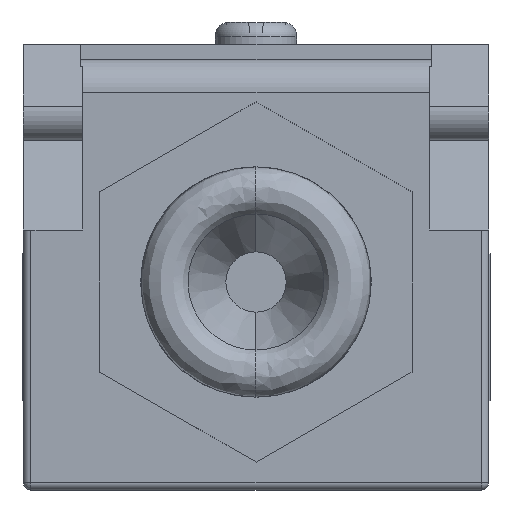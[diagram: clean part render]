
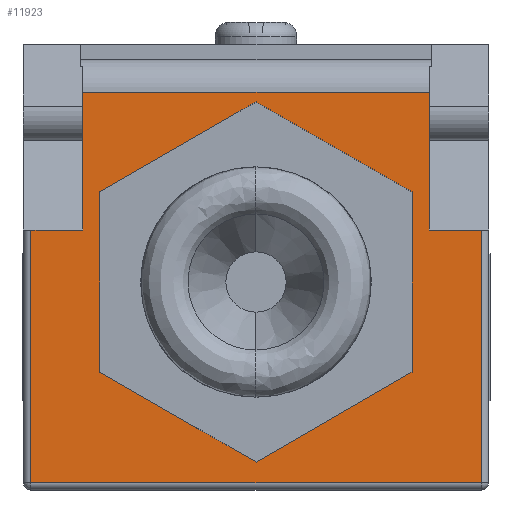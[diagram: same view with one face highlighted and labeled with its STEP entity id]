
A CAD part, front view. The second image highlights one B-rep face of the part: STEP entity #11923.
In plain terms, the highlighted planar face has unit normal (0, -1, 0).
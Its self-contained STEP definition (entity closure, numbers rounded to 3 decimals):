
#6066 = VECTOR ( 'NONE', #7252, 1000. ) ;
#6074 = VECTOR ( 'NONE', #7312, 1000. ) ;
#6097 = VECTOR ( 'NONE', #12486, 1000. ) ;
#6099 = VECTOR ( 'NONE', #12492, 1000. ) ;
#6101 = VECTOR ( 'NONE', #12498, 1000. ) ;
#6109 = VECTOR ( 'NONE', #12519, 1000. ) ;
#6111 = VECTOR ( 'NONE', #12528, 1000. ) ;
#6115 = VECTOR ( 'NONE', #12540, 1000. ) ;
#6119 = VECTOR ( 'NONE', #12552, 1000. ) ;
#6123 = VECTOR ( 'NONE', #12561, 1000. ) ;
#6126 = VECTOR ( 'NONE', #12570, 1000. ) ;
#6129 = VECTOR ( 'NONE', #12579, 1000. ) ;
#6136 = VECTOR ( 'NONE', #13340, 1000. ) ;
#6140 = VECTOR ( 'NONE', #13352, 1000. ) ;
#7250 = LINE ( 'NONE', #7251, #6066 ) ;
#7251 = CARTESIAN_POINT ( 'NONE',  ( 0., -30., -8.824 ) ) ;
#7252 = DIRECTION ( 'NONE',  ( 0.866, 0., 0.5 ) ) ;
#7310 = LINE ( 'NONE', #7311, #6074 ) ;
#7311 = CARTESIAN_POINT ( 'NONE',  ( 10.5, -30., 9.362 ) ) ;
#7312 = DIRECTION ( 'NONE',  ( -0.866, 0., 0.5 ) ) ;
#8052 = AXIS2_PLACEMENT_3D ( 'NONE', #14002, #14003, #14004 ) ;
#8065 = FACE_BOUND ( 'NONE', #9558, .T. ) ;
#8071 = FACE_OUTER_BOUND ( 'NONE', #9557, .T. ) ;
#8251 = ORIENTED_EDGE ( 'NONE', *, *, #14946, .F. ) ;
#8252 = ORIENTED_EDGE ( 'NONE', *, *, #14933, .F. ) ;
#8253 = ORIENTED_EDGE ( 'NONE', *, *, #14917, .F. ) ;
#8254 = ORIENTED_EDGE ( 'NONE', *, *, #14915, .F. ) ;
#8255 = ORIENTED_EDGE ( 'NONE', *, *, #14889, .F. ) ;
#8256 = ORIENTED_EDGE ( 'NONE', *, *, #14959, .F. ) ;
#8257 = ORIENTED_EDGE ( 'NONE', *, *, #14879, .F. ) ;
#8262 = ORIENTED_EDGE ( 'NONE', *, *, #14943, .T. ) ;
#8263 = ORIENTED_EDGE ( 'NONE', *, *, #14926, .T. ) ;
#8264 = ORIENTED_EDGE ( 'NONE', *, *, #14919, .T. ) ;
#8265 = ORIENTED_EDGE ( 'NONE', *, *, #14937, .T. ) ;
#8266 = ORIENTED_EDGE ( 'NONE', *, *, #14955, .T. ) ;
#8267 = ORIENTED_EDGE ( 'NONE', *, *, #14929, .F. ) ;
#8277 = ORIENTED_EDGE ( 'NONE', *, *, #14940, .T. ) ;
#9254 = VERTEX_POINT ( 'NONE', #10650 ) ;
#9255 = VERTEX_POINT ( 'NONE', #10651 ) ;
#9256 = VERTEX_POINT ( 'NONE', #10652 ) ;
#9257 = VERTEX_POINT ( 'NONE', #10653 ) ;
#9258 = VERTEX_POINT ( 'NONE', #10654 ) ;
#9259 = VERTEX_POINT ( 'NONE', #10655 ) ;
#9260 = VERTEX_POINT ( 'NONE', #10656 ) ;
#9261 = VERTEX_POINT ( 'NONE', #10657 ) ;
#9262 = VERTEX_POINT ( 'NONE', #10658 ) ;
#9263 = VERTEX_POINT ( 'NONE', #10659 ) ;
#9264 = VERTEX_POINT ( 'NONE', #10660 ) ;
#9265 = VERTEX_POINT ( 'NONE', #10661 ) ;
#9266 = VERTEX_POINT ( 'NONE', #10662 ) ;
#9267 = VERTEX_POINT ( 'NONE', #10663 ) ;
#9557 = EDGE_LOOP ( 'NONE', ( #8277, #8263, #8262, #8264, #8265, #8266, #8267, #8251 ) ) ;
#9558 = EDGE_LOOP ( 'NONE', ( #8252, #8254, #8253, #8255, #8256, #8257 ) ) ;
#10650 = CARTESIAN_POINT ( 'NONE',  ( 11.65, -30., 16.071 ) ) ;
#10651 = CARTESIAN_POINT ( 'NONE',  ( -11.65, -30., 16.071 ) ) ;
#10652 = CARTESIAN_POINT ( 'NONE',  ( -11.65, -30., 6.8 ) ) ;
#10653 = CARTESIAN_POINT ( 'NONE',  ( -15.15, -30., 6.8 ) ) ;
#10654 = CARTESIAN_POINT ( 'NONE',  ( -15.15, -30., -10.2 ) ) ;
#10655 = CARTESIAN_POINT ( 'NONE',  ( 15.15, -30., -10.2 ) ) ;
#10656 = CARTESIAN_POINT ( 'NONE',  ( 15.15, -30., 6.8 ) ) ;
#10657 = CARTESIAN_POINT ( 'NONE',  ( 11.65, -30., 6.8 ) ) ;
#10658 = CARTESIAN_POINT ( 'NONE',  ( -10.5, -30., -2.762 ) ) ;
#10659 = CARTESIAN_POINT ( 'NONE',  ( 0., -30., -8.824 ) ) ;
#10660 = CARTESIAN_POINT ( 'NONE',  ( -10.5, -30., 9.362 ) ) ;
#10661 = CARTESIAN_POINT ( 'NONE',  ( 0., -30., 15.424 ) ) ;
#10662 = CARTESIAN_POINT ( 'NONE',  ( 10.5, -30., 9.362 ) ) ;
#10663 = CARTESIAN_POINT ( 'NONE',  ( 10.5, -30., -2.762 ) ) ;
#11923 = ADVANCED_FACE ( 'NONE', ( #8071, #8065 ), #14001, .F. ) ;
#12484 = LINE ( 'NONE', #12485, #6097 ) ;
#12485 = CARTESIAN_POINT ( 'NONE',  ( -10.5, -30., 9.362 ) ) ;
#12486 = DIRECTION ( 'NONE',  ( 0., 0., -1. ) ) ;
#12490 = LINE ( 'NONE', #12491, #6099 ) ;
#12491 = CARTESIAN_POINT ( 'NONE',  ( 0., -30., 15.424 ) ) ;
#12492 = DIRECTION ( 'NONE',  ( -0.866, 0., -0.5 ) ) ;
#12496 = LINE ( 'NONE', #12497, #6101 ) ;
#12497 = CARTESIAN_POINT ( 'NONE',  ( -15.15, -30., 10.7 ) ) ;
#12498 = DIRECTION ( 'NONE',  ( 0., 0., -1. ) ) ;
#12517 = LINE ( 'NONE', #12518, #6109 ) ;
#12518 = CARTESIAN_POINT ( 'NONE',  ( -11.65, -30., 6.8 ) ) ;
#12519 = DIRECTION ( 'NONE',  ( 0., 0., -1. ) ) ;
#12526 = LINE ( 'NONE', #12527, #6111 ) ;
#12527 = CARTESIAN_POINT ( 'NONE',  ( 11.65, -30., 6.8 ) ) ;
#12528 = DIRECTION ( 'NONE',  ( 1., 0., 0. ) ) ;
#12538 = LINE ( 'NONE', #12539, #6115 ) ;
#12539 = CARTESIAN_POINT ( 'NONE',  ( -10.5, -30., -2.762 ) ) ;
#12540 = DIRECTION ( 'NONE',  ( 0.866, 0., -0.5 ) ) ;
#12550 = LINE ( 'NONE', #12551, #6119 ) ;
#12551 = CARTESIAN_POINT ( 'NONE',  ( 15.65, -30., -10.2 ) ) ;
#12552 = DIRECTION ( 'NONE',  ( 1., 0., 0. ) ) ;
#12559 = LINE ( 'NONE', #12560, #6123 ) ;
#12560 = CARTESIAN_POINT ( 'NONE',  ( -15.65, -30., 16.071 ) ) ;
#12561 = DIRECTION ( 'NONE',  ( -1., 0., 0. ) ) ;
#12568 = LINE ( 'NONE', #12569, #6126 ) ;
#12569 = CARTESIAN_POINT ( 'NONE',  ( -11.65, -30., 6.8 ) ) ;
#12570 = DIRECTION ( 'NONE',  ( -1., 0., 0. ) ) ;
#12577 = LINE ( 'NONE', #12578, #6129 ) ;
#12578 = CARTESIAN_POINT ( 'NONE',  ( 11.65, -30., 6.8 ) ) ;
#12579 = DIRECTION ( 'NONE',  ( 0., 0., -1. ) ) ;
#13338 = LINE ( 'NONE', #13339, #6136 ) ;
#13339 = CARTESIAN_POINT ( 'NONE',  ( 15.15, -30., 10.7 ) ) ;
#13340 = DIRECTION ( 'NONE',  ( 0., 0., 1. ) ) ;
#13350 = LINE ( 'NONE', #13351, #6140 ) ;
#13351 = CARTESIAN_POINT ( 'NONE',  ( 10.5, -30., -2.762 ) ) ;
#13352 = DIRECTION ( 'NONE',  ( 0., 0., 1. ) ) ;
#14001 = PLANE ( 'NONE',  #8052 ) ;
#14002 = CARTESIAN_POINT ( 'NONE',  ( -15.65, -30., 19.3 ) ) ;
#14003 = DIRECTION ( 'NONE',  ( 0., 1., 0. ) ) ;
#14004 = DIRECTION ( 'NONE',  ( 0., 0., 1. ) ) ;
#14879 = EDGE_CURVE ( 'NONE', #9263, #9267, #7250, .T. ) ;
#14889 = EDGE_CURVE ( 'NONE', #9266, #9265, #7310, .T. ) ;
#14915 = EDGE_CURVE ( 'NONE', #9264, #9262, #12484, .T. ) ;
#14917 = EDGE_CURVE ( 'NONE', #9265, #9264, #12490, .T. ) ;
#14919 = EDGE_CURVE ( 'NONE', #9257, #9258, #12496, .T. ) ;
#14926 = EDGE_CURVE ( 'NONE', #9255, #9256, #12517, .T. ) ;
#14929 = EDGE_CURVE ( 'NONE', #9261, #9260, #12526, .T. ) ;
#14933 = EDGE_CURVE ( 'NONE', #9262, #9263, #12538, .T. ) ;
#14937 = EDGE_CURVE ( 'NONE', #9258, #9259, #12550, .T. ) ;
#14940 = EDGE_CURVE ( 'NONE', #9254, #9255, #12559, .T. ) ;
#14943 = EDGE_CURVE ( 'NONE', #9256, #9257, #12568, .T. ) ;
#14946 = EDGE_CURVE ( 'NONE', #9254, #9261, #12577, .T. ) ;
#14955 = EDGE_CURVE ( 'NONE', #9259, #9260, #13338, .T. ) ;
#14959 = EDGE_CURVE ( 'NONE', #9267, #9266, #13350, .T. ) ;
